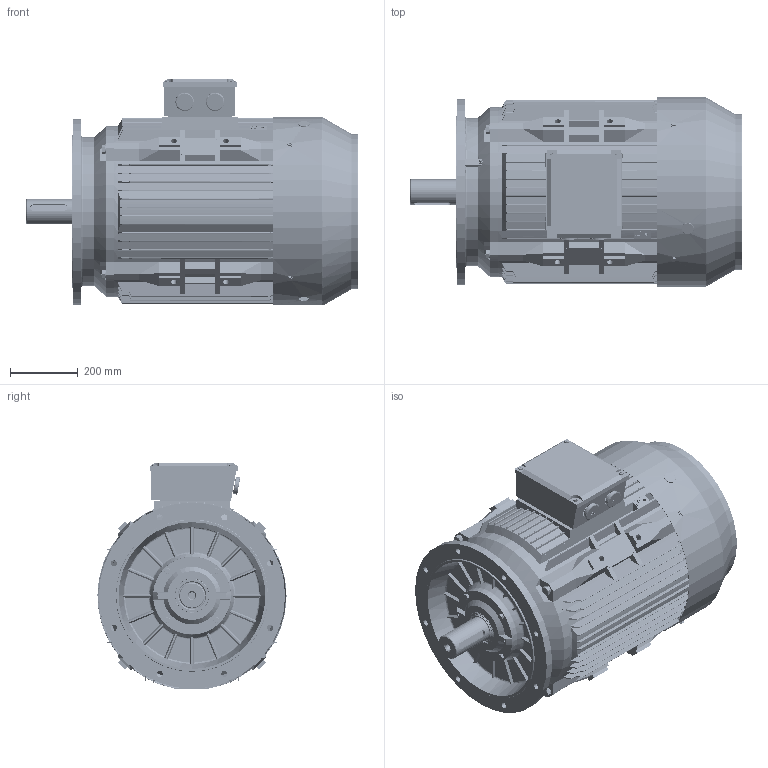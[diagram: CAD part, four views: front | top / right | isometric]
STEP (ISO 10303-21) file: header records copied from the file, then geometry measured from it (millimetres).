
FILE_DESCRIPTION (( 'STEP AP214' ), '1' );
FILE_NAME ('BCT3750.28A405.11.STEP', '2020-04-23T13:13:33', ( '' ), ( '' ), 'SwSTEP 2.0', 'SolidWorks 2019', '' );
FILE_SCHEMA (( 'AUTOMOTIVE_DESIGN' ));
Length unit declared in the file: millimetre
Products named in the file (1): BCT3750.28A405.11
Bounding box: 981.2 x 559 x 666.18 mm (x, y, z)
Volume: 35247607.9 mm3; surface area: 6680195.5 mm2
Topology: 41 solids, 42 shells, 9897 faces, 29011 edges, 19134 vertices
Faces by surface type: plane 4908, cylinder 4201, cone 318, torus 231, sphere 124, bspline 115
Entity records: 362927 total; most frequent: CARTESIAN_POINT 92573, ORIENTED_EDGE 57614, DIRECTION 55514, EDGE_CURVE 28807, VERTEX_POINT 19072, AXIS2_PLACEMENT_3D 18955, VECTOR 17604, LINE 17604
